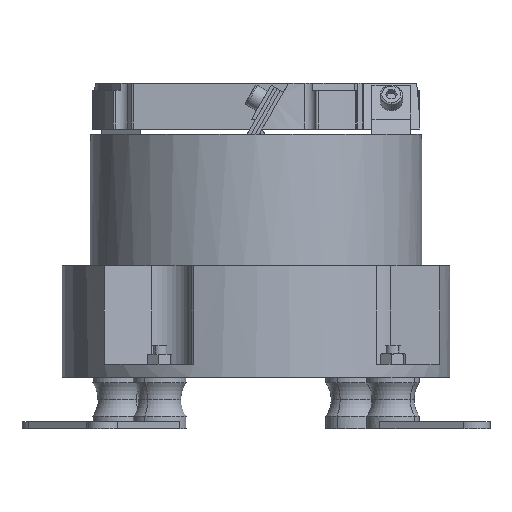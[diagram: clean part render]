
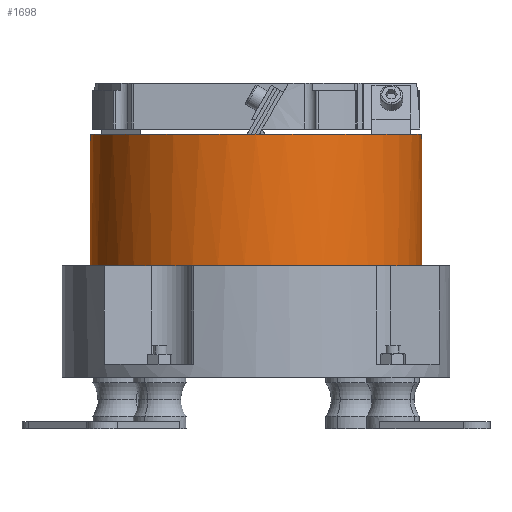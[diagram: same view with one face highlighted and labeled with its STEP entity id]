
A CAD part, front view. The second image highlights one B-rep face of the part: STEP entity #1698.
In plain terms, the highlighted cylindrical face has radius 94 mm (diameter 188 mm), a partial arc.
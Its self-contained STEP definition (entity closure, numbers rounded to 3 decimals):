
#1259=CYLINDRICAL_SURFACE('',#10922,94.);
#1698=ADVANCED_FACE('NONE',(#2276),#1259,.T.);
#2276=FACE_OUTER_BOUND('',#2874,.T.);
#2874=EDGE_LOOP('',(#6526,#6527,#6528,#6529,#6530,#6531,#6532,#6533));
#3538=LINE('',#16573,#4275);
#3539=LINE('',#16585,#4276);
#4275=VECTOR('',#13214,1.);
#4276=VECTOR('',#13225,1.);
#6526=ORIENTED_EDGE('',*,*,#9156,.F.);
#6527=ORIENTED_EDGE('',*,*,#9201,.T.);
#6528=ORIENTED_EDGE('',*,*,#9162,.T.);
#6529=ORIENTED_EDGE('',*,*,#9202,.T.);
#6530=ORIENTED_EDGE('',*,*,#9203,.T.);
#6531=ORIENTED_EDGE('',*,*,#9204,.T.);
#6532=ORIENTED_EDGE('',*,*,#9205,.T.);
#6533=ORIENTED_EDGE('',*,*,#9206,.T.);
#7932=VERTEX_POINT('',#16571);
#7933=VERTEX_POINT('',#16572);
#7934=VERTEX_POINT('',#16574);
#7939=VERTEX_POINT('',#16584);
#7965=VERTEX_POINT('',#17001);
#7966=VERTEX_POINT('',#17003);
#7967=VERTEX_POINT('',#17005);
#7968=VERTEX_POINT('',#17007);
#9156=EDGE_CURVE('NONE',#7933,#7934,#3538,.T.);
#9162=EDGE_CURVE('NONE',#7932,#7939,#3539,.T.);
#9201=EDGE_CURVE('NONE',#7933,#7932,#9983,.T.);
#9202=EDGE_CURVE('NONE',#7939,#7965,#9984,.T.);
#9203=EDGE_CURVE('NONE',#7965,#7966,#9985,.T.);
#9204=EDGE_CURVE('NONE',#7966,#7967,#9986,.T.);
#9205=EDGE_CURVE('NONE',#7967,#7968,#9987,.T.);
#9206=EDGE_CURVE('NONE',#7968,#7934,#9988,.T.);
#9983=CIRCLE('',#10916,94.);
#9984=CIRCLE('',#10917,94.);
#9985=CIRCLE('',#10918,94.);
#9986=CIRCLE('',#10919,94.);
#9987=CIRCLE('',#10920,94.);
#9988=CIRCLE('',#10921,94.);
#10916=AXIS2_PLACEMENT_3D('',#16999,#13328,#13329);
#10917=AXIS2_PLACEMENT_3D('',#17000,#13330,#13331);
#10918=AXIS2_PLACEMENT_3D('',#17002,#13332,#13333);
#10919=AXIS2_PLACEMENT_3D('',#17004,#13334,#13335);
#10920=AXIS2_PLACEMENT_3D('',#17006,#13336,#13337);
#10921=AXIS2_PLACEMENT_3D('',#17008,#13338,#13339);
#10922=AXIS2_PLACEMENT_3D('',#17009,#13340,#13341);
#13214=DIRECTION('',(0.,0.,-1.));
#13225=DIRECTION('',(0.,0.,-1.));
#13328=DIRECTION('',(0.,0.,-1.));
#13329=DIRECTION('',(-1.,0.,0.));
#13330=DIRECTION('',(0.,0.,1.));
#13331=DIRECTION('',(-1.,0.,0.));
#13332=DIRECTION('',(0.,0.,1.));
#13333=DIRECTION('',(-1.,0.,0.));
#13334=DIRECTION('',(0.,0.,1.));
#13335=DIRECTION('',(-1.,0.,0.));
#13336=DIRECTION('',(0.,0.,1.));
#13337=DIRECTION('',(-1.,0.,0.));
#13338=DIRECTION('',(0.,0.,1.));
#13339=DIRECTION('',(-1.,0.,0.));
#13340=DIRECTION('',(0.,0.,-1.));
#13341=DIRECTION('',(-1.,0.,0.));
#16571=CARTESIAN_POINT('',(-181.361,18.104,54.053));
#16572=CARTESIAN_POINT('',(6.639,18.104,54.053));
#16573=CARTESIAN_POINT('',(6.639,18.104,54.053));
#16574=CARTESIAN_POINT('',(6.639,18.104,-20.447));
#16584=CARTESIAN_POINT('',(-181.361,18.104,-20.447));
#16585=CARTESIAN_POINT('',(-181.361,18.104,54.053));
#16999=CARTESIAN_POINT('',(-87.361,18.104,54.053));
#17000=CARTESIAN_POINT('',(-87.361,18.104,-20.447));
#17001=CARTESIAN_POINT('',(-156.785,-45.269,-20.447));
#17002=CARTESIAN_POINT('',(-87.361,18.104,-20.447));
#17003=CARTESIAN_POINT('',(-123.44,-68.696,-20.447));
#17004=CARTESIAN_POINT('',(-87.361,18.104,-20.447));
#17005=CARTESIAN_POINT('',(-23.987,-51.32,-20.447));
#17006=CARTESIAN_POINT('',(-87.361,18.104,-20.447));
#17007=CARTESIAN_POINT('',(-0.56,-17.975,-20.447));
#17008=CARTESIAN_POINT('',(-87.361,18.104,-20.447));
#17009=CARTESIAN_POINT('',(-87.361,18.104,54.053));
